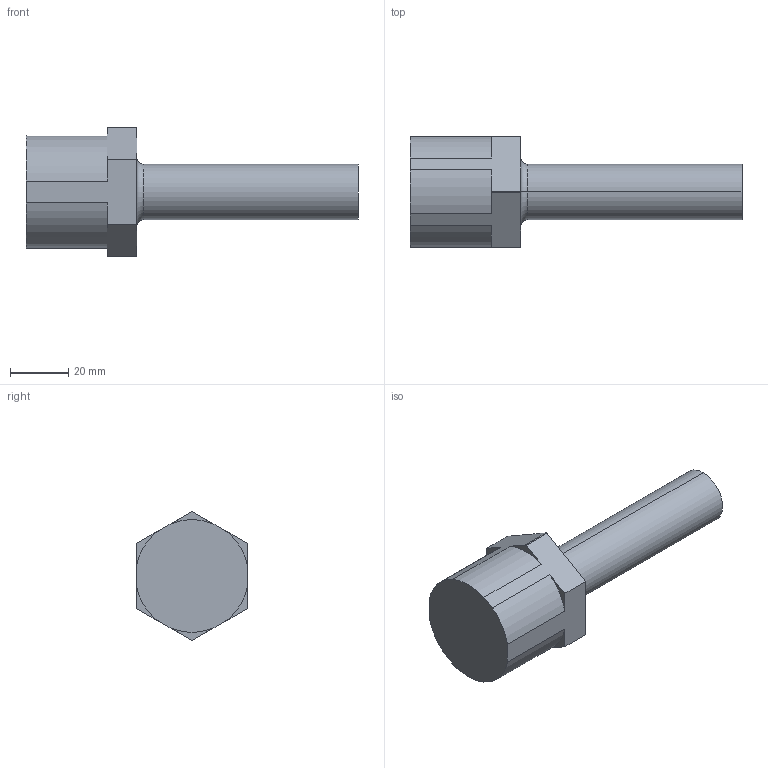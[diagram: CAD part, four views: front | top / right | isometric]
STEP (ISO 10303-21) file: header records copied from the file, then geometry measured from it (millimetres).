
FILE_DESCRIPTION (( 'STEP AP214' ), '1' );
FILE_NAME ('12-tube-out.STEP', '2012-12-03T19:11:36', ( '' ), ( '' ), 'SwSTEP 2.0', 'SolidWorks 2012', '' );
FILE_SCHEMA (( 'AUTOMOTIVE_DESIGN' ));
Length unit declared in the file: inch
Products named in the file (1): 12-tube-out
Bounding box: 114.3 x 38.05 x 44.2 mm (x, y, z)
Volume: 51127.8 mm3; surface area: 15945.1 mm2
Topology: 1 solids, 1 shells, 32 faces, 82 edges, 54 vertices
Faces by surface type: plane 16, cylinder 14, torus 2
Entity records: 1126 total; most frequent: DIRECTION 180, CARTESIAN_POINT 169, ORIENTED_EDGE 164, EDGE_CURVE 82, AXIS2_PLACEMENT_3D 65, VERTEX_POINT 54, VECTOR 50, LINE 50
